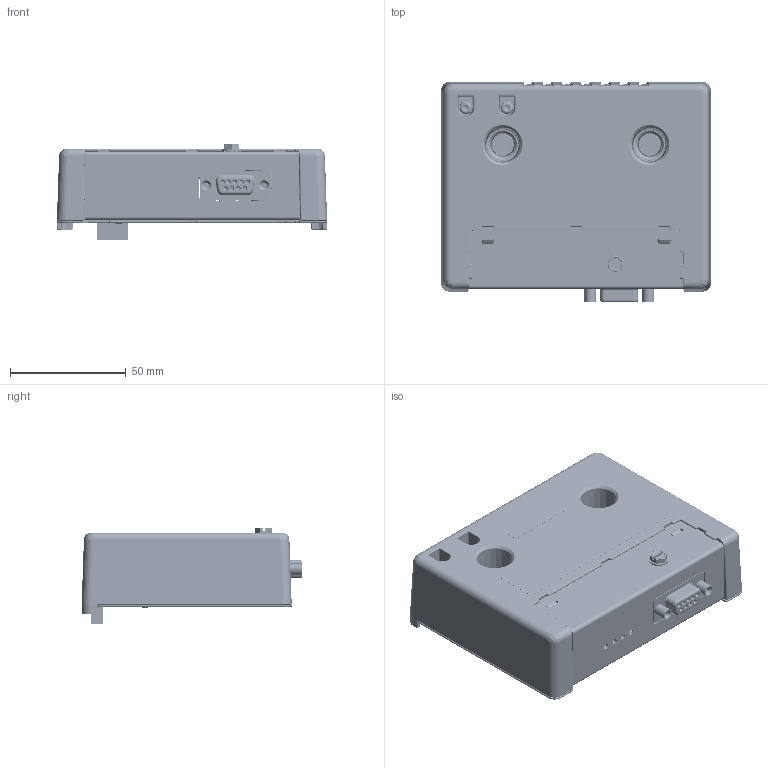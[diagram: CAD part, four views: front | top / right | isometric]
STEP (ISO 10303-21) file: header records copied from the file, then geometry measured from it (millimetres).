
FILE_DESCRIPTION(/* description */ ('Unknown'),/* implementation_level */ '2;1');
FILE_NAME(/* name */ 'CRM000_Profibus',/* time_stamp */ '2019-10-08T07:26:50-04:00',/* author */ ('Unknown'),/* organization */ ('Unknown'),/* preprocessor_version */ 'ST-DEVELOPER v16.7',/* originating_system */ 'DEX',/* authorisation */ $);
FILE_SCHEMA (('AUTOMOTIVE_DESIGN {1 0 10303 214 3 1 1}'));
Products named in the file (323): CRM000_Profibus; Right cover_screws; 10350; HWSCQ020; 10389; CNEP0100; 10368; 10416; 10358; front label; 10351; 10501; 10390; 10147; 10353; M4905A_GMPB_2014-03-28; U200; 435864864; Extruded; 435864992; Extruded-1; C508; 435856288; Extruded-2; 435856160; Extruded-3; CN401; 435858208; Extruded-4; 435858336; Extruded-5; I106; 435856928; Extruded-6; 435857056; Extruded-7; I105; I104; I103; I102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
Assembly tree (781 placements, depth 5):
  CRM000_Profibus
    Right cover_screws
      10350
      HWSCQ020  x2
    10389
      CNEP0100
      10368
      10416
      10358  x2
    front label
    10351
    10501
    10390  x6
    10147  x2
    10353
    M4905A_GMPB_2014-03-28
      U200
        435864864  x16
          Extruded
        435864992
          Extruded-1
      C508
        435856288  x2
          Extruded-2
        435856160
          Extruded-3
      CN401
        435858208
          Extruded-4
        435858336  x6
          Extruded-5
      I106
        435856928  x2
          Extruded-6
        435857056
          Extruded-7
      I105
        435856928  x2
          Extruded-6
        435857056
          Extruded-7
      I104
        435856928  x2
          Extruded-6
        435857056
          Extruded-7
      I103
        435856928  x2
          Extruded-6
        435857056
          Extruded-7
      I102
        435856928  x2
          Extruded-6
        435857056
          Extruded-7
      D102
        435866656  x6
          Extruded-8
        435859744
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Bounding box: 116.84 x 95.45 x 41.86 mm (x, y, z)
Volume: 72787.5 mm3; surface area: 108532.8 mm2
Topology: 570 solids, 570 shells, 11755 faces, 29141 edges, 18339 vertices
Faces by surface type: plane 7563, cylinder 2858, bspline 515, sphere 302, torus 260, cone 257
Full cylindrical faces by diameter (mm): 0.2 x1, 0.254 x1, 0.5 x2, 0.889 x4, 1 x2, 1.016 x11, 1.15 x9, 1.346 x4, 2.156 x2, 2.293 x4, 2.35 x2, 2.387 x16, 2.54 x4, 2.56 x2, 2.647 x2, 2.845 x16, 3.048 x1, 3.05 x2, 3.264 x2, 3.505 x8, 3.696 x1, 4.3 x2, 4.305 x1, 5 x2, 5.41 x2, 5.563 x6, 7.829 x2, 8.331 x1, 9.677 x2, 12.446 x1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
Entity records: 303241 total; most frequent: CARTESIAN_POINT 56453, DIRECTION 42273, ORIENTED_EDGE 40972, EDGE_CURVE 20486, AXIS2_PLACEMENT_3D 14241, LINE 13791, VECTOR 13791, VERTEX_POINT 12909
